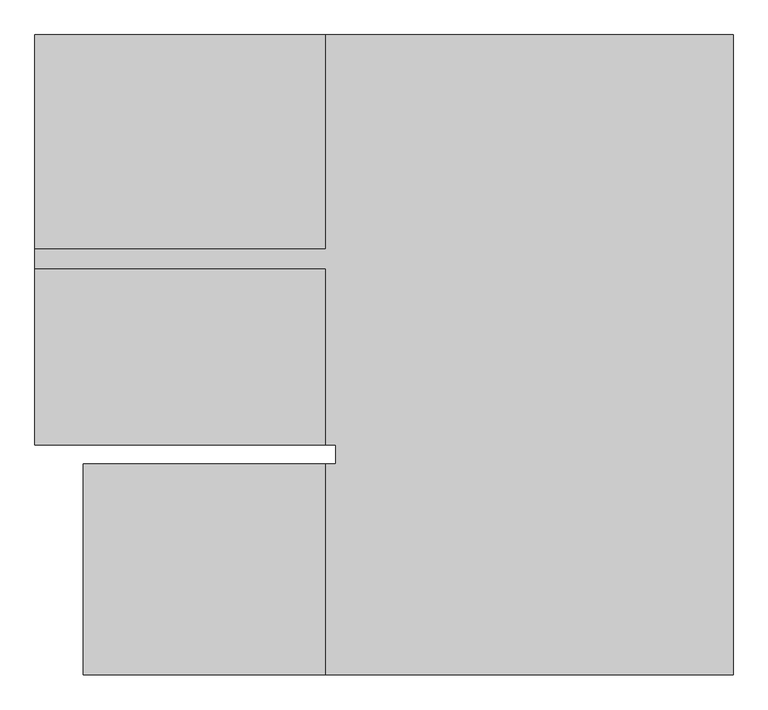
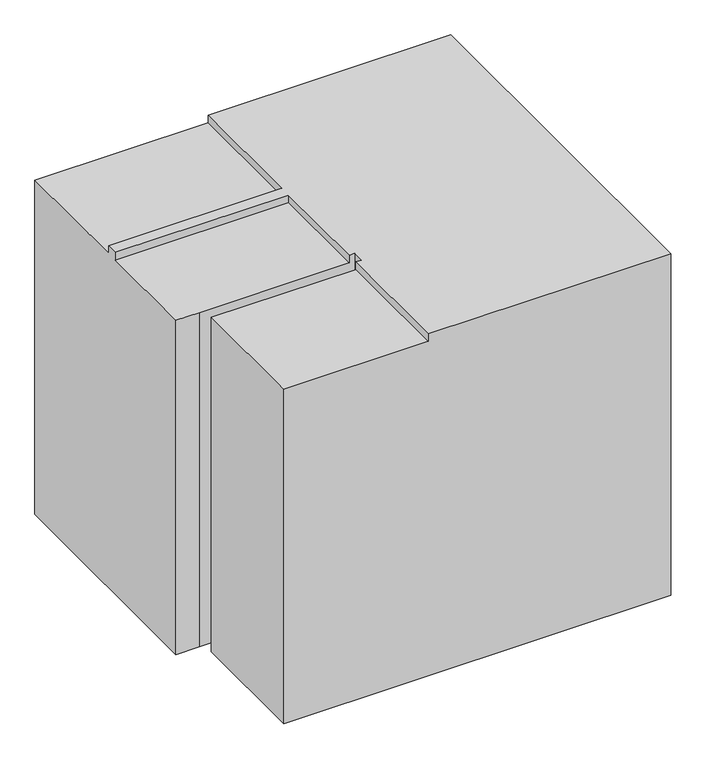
"""IFC4 building model written with IfcOpenShell, lengths in millimetres: proxy geometry."""

from ifc_helpers import new_model, si_unit, origin, place, context, project, spatial, faceted_brep, source, transform, mapped, element, save


def generic_models_0373db36(model_context):
    return source(origin(), model_context, "Body", "Brep", [
        faceted_brep([(-15994.9988284, -19100.7903364, 3130.0), (-15994.9988284, -15837.769599, 3130.0), (-15994.9988284, -15800.0, 3130.0), (-18094.9988284, -15800.0, 3130.0), (-18094.9988284, -16904.999999, 3130.0), (-19594.9988284, -16904.999999, 3130.0), (-19594.9988284, -17004.999999, 3130.0), (-18094.9988284, -17004.999999, 3130.0), (-18094.9988284, -17914.999999, 3130.0), (-18044.9988284, -17914.999999, 3130.0), (-18044.9988284, -18014.999999, 3130.0), (-18094.9988284, -18014.999999, 3130.0), (-18094.9988284, -19100.7903364, 3130.0), (-15994.9988284, -19100.7903364, 0.0), (-19344.9988284, -19100.7903364, 0.0), (-19344.9988284, -18014.999999, 0.0), (-18044.9988284, -18014.999999, 0.0), (-18044.9988284, -17914.999999, 0.0), (-19394.9988284, -17914.999999, 0.0), (-19594.9988284, -17914.999999, 0.0), (-19594.9988284, -15800.0, 0.0), (-15994.9988284, -15800.0, 0.0), (-15994.9988284, -15837.769599, 0.0), (-18094.9988284, -19100.7903364, 3060.0), (-19344.9988284, -19100.7903364, 3060.0), (-19594.9988284, -15800.0, 3060.0), (-18094.9988284, -15800.0, 3060.0), (-19594.9988284, -17914.999999, 3060.0), (-19594.9988284, -17004.999999, 3060.0), (-19594.9988284, -16904.999999, 3060.0), (-19394.9988284, -17914.999999, 3060.0), (-18094.9988284, -17914.999999, 3060.0), (-19344.9988284, -18014.999999, 3060.0), (-18094.9988284, -18014.999999, 3060.0), (-18094.9988284, -17004.999999, 3060.0), (-18094.9988284, -16904.999999, 3060.0)], [[[0, 1, 2, 3, 4, 5, 6, 7, 8, 9, 10, 11, 12]], [[13, 14, 15, 16, 17, 18, 19, 20, 21, 22]], [[14, 13, 0, 12, 23, 24]], [[1, 0, 13, 22]], [[2, 1, 22, 21]], [[21, 20, 25, 26, 3, 2]], [[20, 19, 27, 28, 6, 5, 29, 25]], [[19, 18, 30, 27]], [[18, 17, 9, 8, 31, 30]], [[10, 9, 17, 16]], [[16, 15, 32, 33, 11, 10]], [[15, 14, 24, 32]], [[34, 28, 27, 30, 31]], [[33, 23, 12, 11]], [[28, 34, 7, 6]], [[35, 26, 25, 29]], [[35, 29, 5, 4]], [[26, 35, 4, 3]], [[34, 31, 8, 7]], [[23, 33, 32, 24]]]),
    ])


if __name__ == "__main__":
    model = new_model("IFC4")
    model_context = context("Model", 3, world=origin())
    ifc_project = project(units=[si_unit("LENGTHUNIT", "METRE", prefix="MILLI")], contexts=[model_context])
    site = spatial("IfcSite", under=ifc_project)
    building = spatial("IfcBuilding", under=site)
    placement = place(None, origin())
    generic_models_shape = generic_models_0373db36(model_context)
    element("IfcBuildingElementProxy", 1, Name="Generic Models", at=placement, inside=building, context=model_context, shape_type="MappedRepresentation", body=[
        mapped(generic_models_shape, transform((0.0, 0.0, 0.0), x_axis=(1.0, 0.0, 0.0), y_axis=(0.0, 1.0, 0.0), z_axis=(0.0, 0.0, 1.0))),
    ])
    save(model, "model.ifc")
